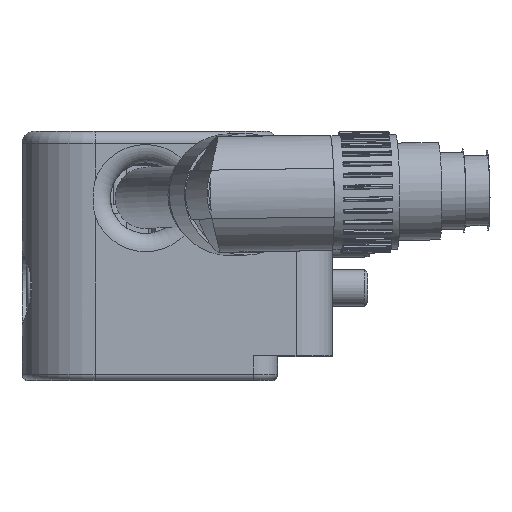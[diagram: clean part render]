
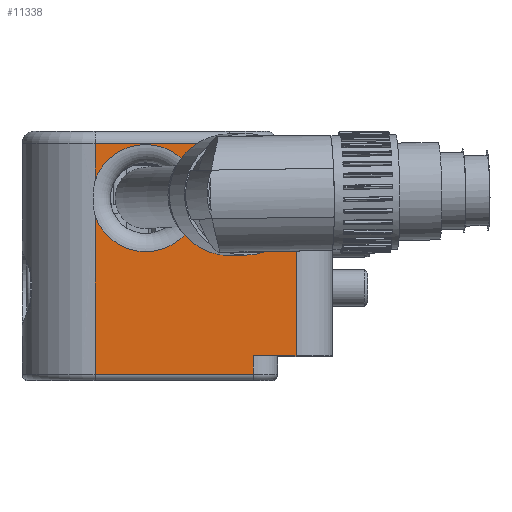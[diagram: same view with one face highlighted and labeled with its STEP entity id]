
A CAD part, top view. The second image highlights one B-rep face of the part: STEP entity #11338.
In plain terms, the highlighted planar face has unit normal (0, 0, 1).
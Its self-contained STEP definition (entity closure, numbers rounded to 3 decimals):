
#738=CIRCLE('',#12238,4.4);
#739=CIRCLE('',#12239,4.4);
#1376=FACE_OUTER_BOUND('',#2052,.T.);
#2052=EDGE_LOOP('',(#8272,#8273,#8274,#8275,#8276,#8277,#8278,#8279,#8280,
#8281,#8282));
#2846=LINE('',#18005,#3742);
#2848=LINE('',#18010,#3744);
#2853=LINE('',#18024,#3749);
#2899=LINE('',#18166,#3795);
#2911=LINE('',#18256,#3807);
#2912=LINE('',#18273,#3808);
#2913=LINE('',#18310,#3809);
#2914=LINE('',#18312,#3810);
#2915=LINE('',#18313,#3811);
#3742=VECTOR('',#14194,10.);
#3744=VECTOR('',#14200,10.);
#3749=VECTOR('',#14213,10.);
#3795=VECTOR('',#14355,10.);
#3807=VECTOR('',#14421,10.);
#3808=VECTOR('',#14422,10.);
#3809=VECTOR('',#14425,10.);
#3810=VECTOR('',#14426,10.);
#3811=VECTOR('',#14427,3.);
#4652=VERTEX_POINT('',#17941);
#4668=VERTEX_POINT('',#18000);
#4669=VERTEX_POINT('',#18009);
#4674=VERTEX_POINT('',#18023);
#4712=VERTEX_POINT('',#18159);
#4715=VERTEX_POINT('',#18164);
#4734=VERTEX_POINT('',#18255);
#4736=VERTEX_POINT('',#18266);
#4737=VERTEX_POINT('',#18309);
#4738=VERTEX_POINT('',#18311);
#4739=VERTEX_POINT('',#18314);
#5915=EDGE_CURVE('',#4652,#4668,#2846,.T.);
#5917=EDGE_CURVE('',#4668,#4669,#2848,.T.);
#5924=EDGE_CURVE('',#4674,#4669,#2853,.T.);
#5993=EDGE_CURVE('',#4715,#4712,#2899,.T.);
#6024=EDGE_CURVE('',#4712,#4734,#2911,.T.);
#6027=EDGE_CURVE('',#4736,#4652,#2912,.T.);
#6029=EDGE_CURVE('',#4737,#4715,#2913,.T.);
#6030=EDGE_CURVE('',#4737,#4738,#2914,.T.);
#6031=EDGE_CURVE('',#4674,#4738,#2915,.T.);
#6032=EDGE_CURVE('',#4739,#4736,#738,.T.);
#6033=EDGE_CURVE('',#4734,#4739,#739,.T.);
#8272=ORIENTED_EDGE('',*,*,#5993,.F.);
#8273=ORIENTED_EDGE('',*,*,#6029,.F.);
#8274=ORIENTED_EDGE('',*,*,#6030,.T.);
#8275=ORIENTED_EDGE('',*,*,#6031,.F.);
#8276=ORIENTED_EDGE('',*,*,#5924,.T.);
#8277=ORIENTED_EDGE('',*,*,#5917,.F.);
#8278=ORIENTED_EDGE('',*,*,#5915,.F.);
#8279=ORIENTED_EDGE('',*,*,#6027,.F.);
#8280=ORIENTED_EDGE('',*,*,#6032,.F.);
#8281=ORIENTED_EDGE('',*,*,#6033,.F.);
#8282=ORIENTED_EDGE('',*,*,#6024,.F.);
#10223=PLANE('',#12237);
#11338=ADVANCED_FACE('',(#1376),#10223,.T.);
#12237=AXIS2_PLACEMENT_3D('',#18308,#14423,#14424);
#12238=AXIS2_PLACEMENT_3D('',#18315,#14428,#14429);
#12239=AXIS2_PLACEMENT_3D('',#18316,#14430,#14431);
#14194=DIRECTION('',(1.,0.,0.));
#14200=DIRECTION('',(0.,-1.,0.));
#14213=DIRECTION('',(-1.,0.,0.));
#14355=DIRECTION('',(-1.,0.,0.));
#14421=DIRECTION('',(0.,1.,0.));
#14422=DIRECTION('',(0.,1.,0.));
#14423=DIRECTION('center_axis',(0.,0.,
1.));
#14424=DIRECTION('ref_axis',(0.,1.,0.));
#14425=DIRECTION('',(0.,-1.,0.));
#14426=DIRECTION('',(1.,0.,0.));
#14427=DIRECTION('',(0.,-1.,0.));
#14428=DIRECTION('center_axis',(0.,0.,
1.));
#14429=DIRECTION('ref_axis',(0.,1.,0.));
#14430=DIRECTION('center_axis',(0.,0.,
1.));
#14431=DIRECTION('ref_axis',(0.,1.,0.));
#17941=CARTESIAN_POINT('',(-5.05,28.6,19.));
#18000=CARTESIAN_POINT('',(5.95,28.6,19.));
#18005=CARTESIAN_POINT('',(-5.8,28.6,19.));
#18009=CARTESIAN_POINT('',(5.95,24.1,19.));
#18010=CARTESIAN_POINT('',(5.95,29.6,19.));
#18023=CARTESIAN_POINT('',(11.45,24.1,19.));
#18024=CARTESIAN_POINT('',(14.45,24.1,19.));
#18159=CARTESIAN_POINT('',(-5.05,9.65,19.));
#18164=CARTESIAN_POINT('',(7.95,9.65,19.));
#18166=CARTESIAN_POINT('',(-4.675,9.65,19.));
#18255=CARTESIAN_POINT('',(-5.05,22.638,19.));
#18256=CARTESIAN_POINT('',(-5.05,24.1,19.));
#18266=CARTESIAN_POINT('',(-5.05,25.562,19.));
#18273=CARTESIAN_POINT('',(-5.05,29.6,19.));
#18308=CARTESIAN_POINT('Origin',(-11.05,24.1,19.));
#18309=CARTESIAN_POINT('',(7.95,11.15,19.));
#18310=CARTESIAN_POINT('',(7.95,15.573,19.));
#18311=CARTESIAN_POINT('',(11.45,11.15,19.));
#18312=CARTESIAN_POINT('',(13.282,11.15,19.));
#18313=CARTESIAN_POINT('',(11.45,24.1,19.));
#18314=CARTESIAN_POINT('',(-0.9,28.5,19.));
#18315=CARTESIAN_POINT('Origin',(-0.9,24.1,19.));
#18316=CARTESIAN_POINT('Origin',(-0.9,24.1,19.));
